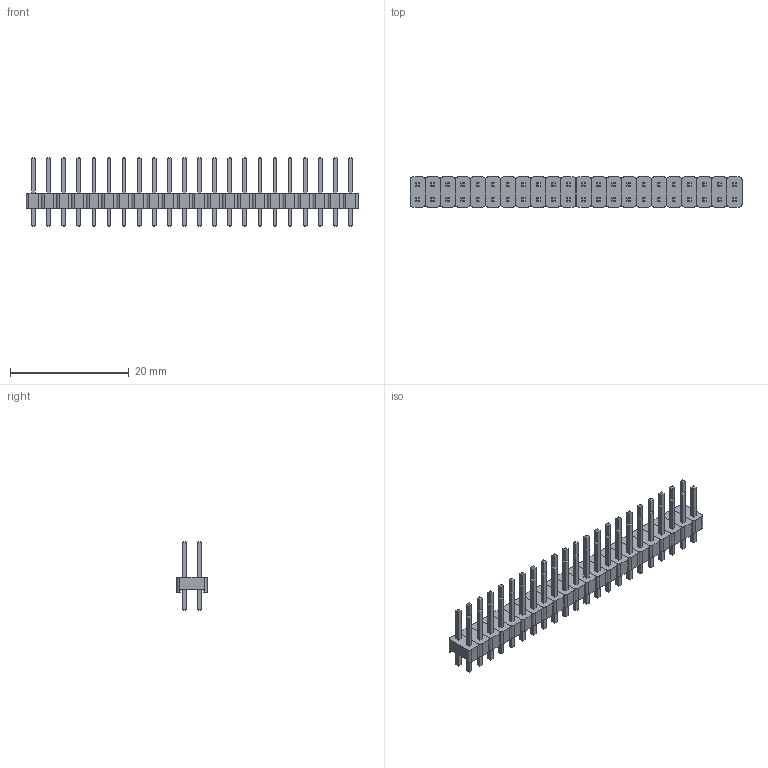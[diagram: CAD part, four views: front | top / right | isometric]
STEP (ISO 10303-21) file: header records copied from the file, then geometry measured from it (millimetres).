
FILE_DESCRIPTION(('FreeCAD Model'),'2;1');
FILE_NAME('Open CASCADE Shape Model','2022-04-06T16:01:47',( 'Engenharia Metaltex'),('Metaltex'), 'Open CASCADE STEP processor 7.5','FreeCAD','Unknown');
FILE_SCHEMA(('AUTOMOTIVE_DESIGN { 1 0 10303 214 1 1 1 1 }'));
Length unit declared in the file: millimetre
Products named in the file (89): BPDC; 22; Base021; Pino043; Pino044; 1; Base; Pino1; Pino2; 2; Base001; Pino003; Pino004; 3; Base002; Pino006; Pino005; 4; Base003; Pino008; Pino007; 5; Base004; Pino009; Pino010; 6; Base005; Pino012; Pino011; 7; Base006; Pino013; Pino014; 8; Base007; Pino015; Pino016; 9; Base008; Pino017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
Assembly tree (88 placements, depth 3):
  BPDC
    22
      Base021
      Pino043
      Pino044
    1
      Base
      Pino1
      Pino2
    2
      Base001
      Pino003
      Pino004
    3
      Base002
      Pino006
      Pino005
    4
      Base003
      Pino008
      Pino007
    5
      Base004
      Pino009
      Pino010
    6
      Base005
      Pino012
      Pino011
    7
      Base006
      Pino013
      Pino014
    8
      Base007
      Pino015
      Pino016
    9
      Base008
      Pino017
      Pino018
    10
      Base009
      Pino019
      Pino020
    11
      Base010
      Pino021
      Pino022
    12
      Base011
      Pino023
      Pino024
    13
      Base012
      Pino025
      Pino026
    14
      Base013
      Pino027
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Bounding box: 55.88 x 5.08 x 11.54 mm (x, y, z)
Volume: 768.3 mm3; surface area: 2829.9 mm2
Topology: 66 solids, 66 shells, 1100 faces, 2552 edges, 1584 vertices
Faces by surface type: plane 1012, cylinder 88
Entity records: 66019 total; most frequent: CARTESIAN_POINT 10957, DIRECTION 10122, LINE 7304, VECTOR 7304, ORIENTED_EDGE 5104, PCURVE 5104, DEFINITIONAL_REPRESENTATION 5104, EDGE_CURVE 2552
